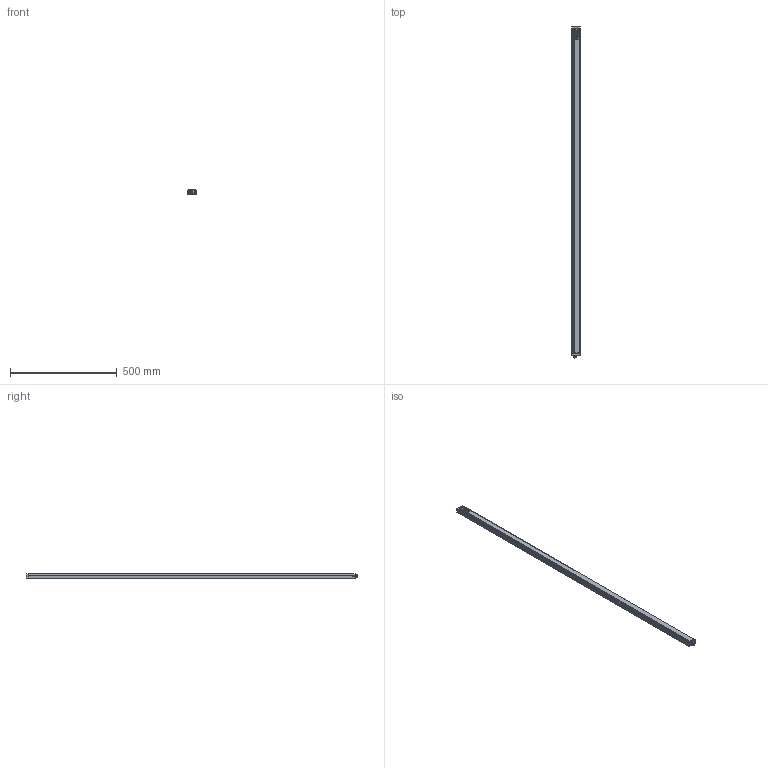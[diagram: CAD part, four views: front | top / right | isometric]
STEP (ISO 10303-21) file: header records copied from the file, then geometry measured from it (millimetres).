
FILE_DESCRIPTION(/* description */ (''),/* implementation_level */ '2;1');
FILE_NAME(/* name */ 'C:\Users\andre\SynologyDrive\Optoscan\Libreria Componenti\00 - Barriere\Barriera sorgente\Argo_1520_TX.stp',/* time_stamp */ '2021-04-22T10:25:23+02:00',/* author */ ('andre'),/* organization */ (''),/* preprocessor_version */ 'ST-DEVELOPER v18',/* originating_system */ 'Autodesk Inventor 2020',/* authorisation */ '');
FILE_SCHEMA (('AUTOMOTIVE_DESIGN { 1 0 10303 214 3 1 1 }'));
Length unit declared in the file: millimetre
Products named in the file (1): Argo_1520_TX
Bounding box: 40.5 x 1553.3 x 20.75 mm (x, y, z)
Volume: 307310.6 mm3; surface area: 403233.9 mm2
Topology: 1 solids, 1 shells, 696 faces, 1911 edges, 1225 vertices
Faces by surface type: plane 321, cylinder 195, bspline 94, torus 72, cone 8, sphere 6
Full cylindrical faces by diameter (mm): 1 x4, 2.459 x4, 2.5 x4, 3 x4, 3.5 x4, 5.5 x4, 8 x1, 10.5 x2, 11.75 x9, 15.7 x1, 17.5 x1
Entity records: 30770 total; most frequent: CARTESIAN_POINT 12670, ORIENTED_EDGE 3806, DIRECTION 3415, EDGE_CURVE 1903, VERTEX_POINT 1225, AXIS2_PLACEMENT_3D 1193, LINE 1029, VECTOR 1029
